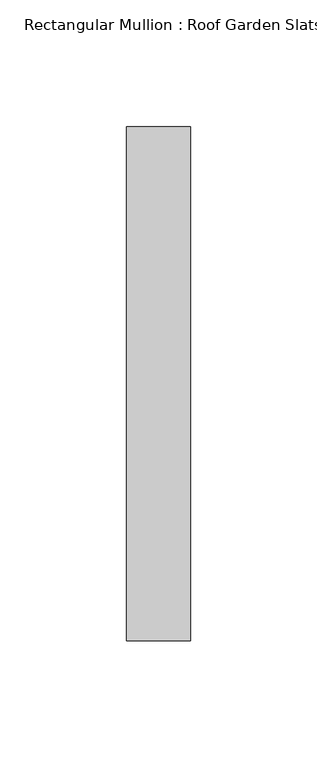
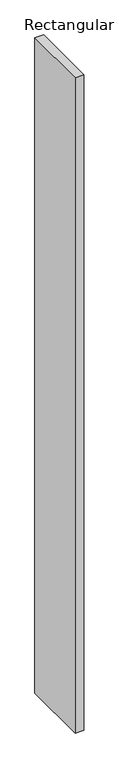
"""IFC4 building model written with IfcOpenShell, lengths in millimetres: member geometry, Rectangular Mullion : Roof Garden Slats."""

import ifcopenshell
import ifcopenshell.guid

model = None  # the IFC model being written
_history = None  # IfcOwnerHistory: only IFC2X3 demands one
_inside = {}  # id of a spatial element -> (the spatial element, [elements in it])
_under = {}  # id of a project, library or spatial element -> (it, [spatial elements below it])
_declared = {}  # id of a project -> (the project, [libraries it declares])
_typed = {}  # id of a type object -> (the type object, [elements of that type])
_made_of = {}  # id of a material, layer set ... -> (it, [elements and type objects made of it])


def new_model(schema):
    """Start an empty IFC model of exactly this schema.

    Asked for "IFC4X3", IfcOpenShell would pick the latest addendum, in which some entities
    have other attributes; the version numbers below select the first issue.
    IFC2X3 requires an IfcOwnerHistory on every rooted entity: one is made here for all.
    """
    global model, _history
    if schema == "IFC4X3":
        model = ifcopenshell.file(schema_version=(4, 3, 0, 0))
    else:
        model = ifcopenshell.file(schema=schema)
    _inside.clear()
    _under.clear()
    _declared.clear()
    _typed.clear()
    _made_of.clear()
    _history = None
    if model.schema == "IFC2X3":
        org = make("IfcOrganization", Name="unknown")
        user = make(
            "IfcPersonAndOrganization",
            ThePerson=make("IfcPerson", FamilyName="unknown"),
            TheOrganization=org,
        )
        app = make(
            "IfcApplication",
            ApplicationDeveloper=org,
            Version="unknown",
            ApplicationFullName="unknown",
            ApplicationIdentifier="unknown",
        )
        _history = make(
            "IfcOwnerHistory",
            OwningUser=user,
            OwningApplication=app,
            ChangeAction="ADDED",
            CreationDate=0,
        )
    return model


def make(cls, **values):
    """One entity of the class cls with the attributes given. An attribute that is None is left unset."""
    return model.create_entity(
        cls, **{name: value for name, value in values.items() if value is not None}
    )


def rooted(cls, **values):
    """An entity with a GlobalId (a new one), such as an element, a storey or a relation."""
    return make(cls, GlobalId=ifcopenshell.guid.new(), OwnerHistory=_history, **values)


def si_unit(unit_type, name, prefix=None):
    """IfcSIUnit, for example si_unit("LENGTHUNIT", "METRE", prefix="MILLI")."""
    return make("IfcSIUnit", UnitType=unit_type, Prefix=prefix, Name=name)


def assignment(units):
    """IfcUnitAssignment: the units of a project."""
    return None if units is None else make("IfcUnitAssignment", Units=units)


def point(xyz):
    """IfcCartesianPoint."""
    return None if xyz is None else make("IfcCartesianPoint", Coordinates=xyz)


def direction(xyz):
    """IfcDirection."""
    return None if xyz is None else make("IfcDirection", DirectionRatios=xyz)


def frame(location, z_axis=None, x_axis=None):
    """IfcAxis2Placement3D, a coordinate frame: its origin and axes. An axis left out is left unset."""
    return make(
        "IfcAxis2Placement3D",
        Location=point(location),
        Axis=direction(z_axis),
        RefDirection=direction(x_axis),
    )


def origin():
    """The frame at (0, 0, 0) with its axes left unset."""
    return frame((0.0, 0.0, 0.0))


def place(relative_to, where):
    """IfcLocalPlacement: puts the frame where relative to a parent placement (None: the world)."""
    return make(
        "IfcLocalPlacement", PlacementRelTo=relative_to, RelativePlacement=where
    )


def context(
    kind, dimensions, precision=None, world=None, true_north=None, identifier=None
):
    """IfcGeometricRepresentationContext, for example the 3D "Model" context."""
    return make(
        "IfcGeometricRepresentationContext",
        ContextIdentifier=identifier,
        ContextType=kind,
        CoordinateSpaceDimension=dimensions,
        Precision=precision,
        WorldCoordinateSystem=world,
        TrueNorth=true_north,
    )


def project(units=None, contexts=None):
    """IfcProject with its units and contexts."""
    return rooted(
        "IfcProject",
        Name="project",
        RepresentationContexts=contexts,
        UnitsInContext=assignment(units),
    )


def spatial(cls, under=None, at=None, **own):
    """A site, building, storey or space (cls), placed at a placement, below another one or the project."""
    s = rooted(cls, ObjectPlacement=at, **own)
    if under is not None:
        _under.setdefault(under.id(), (under, []))[1].append(s)
    return s


def polyline(points):
    """IfcPolyline through the points."""
    return make("IfcPolyline", Points=[point(p) for p in points])


def outline(outer, holes=None, kind="AREA"):
    """IfcArbitraryClosedProfileDef: a profile drawn as a closed curve; with holes, ...WithVoids."""
    if holes is None:
        return make("IfcArbitraryClosedProfileDef", ProfileType=kind, OuterCurve=outer)
    return make(
        "IfcArbitraryProfileDefWithVoids",
        ProfileType=kind,
        OuterCurve=outer,
        InnerCurves=holes,
    )


def extrude(swept, where, along, depth):
    """IfcExtrudedAreaSolid: the profile swept, set in the frame where, extruded along a direction by depth."""
    return make(
        "IfcExtrudedAreaSolid",
        SweptArea=swept,
        Position=where,
        ExtrudedDirection=direction(along),
        Depth=depth,
    )


def shape(context_of_items, identifier, shape_type, items):
    """IfcShapeRepresentation: the items that make up one representation, for example the "Body"."""
    return make(
        "IfcShapeRepresentation",
        ContextOfItems=context_of_items,
        RepresentationIdentifier=identifier,
        RepresentationType=shape_type,
        Items=items,
    )


def source(mapping_origin, context_of_items, identifier, shape_type, items):
    """IfcRepresentationMap: a shape defined once, which mapped items show again and again."""
    return make(
        "IfcRepresentationMap",
        MappingOrigin=mapping_origin,
        MappedRepresentation=shape(context_of_items, identifier, shape_type, items),
    )


def transform(
    local_origin,
    x_axis=None,
    y_axis=None,
    z_axis=None,
    scale=None,
    scale2=None,
    scale3=None,
    uniform=True,
):
    """IfcCartesianTransformationOperator3D, or its non-uniform kind. x_axis, y_axis, z_axis: its Axis1, 2, 3."""
    if uniform:
        return make(
            "IfcCartesianTransformationOperator3D",
            Axis1=direction(x_axis),
            Axis2=direction(y_axis),
            LocalOrigin=point(local_origin),
            Scale=scale,
            Axis3=direction(z_axis),
        )
    return make(
        "IfcCartesianTransformationOperator3DnonUniform",
        Axis1=direction(x_axis),
        Axis2=direction(y_axis),
        LocalOrigin=point(local_origin),
        Scale=scale,
        Axis3=direction(z_axis),
        Scale2=scale2,
        Scale3=scale3,
    )


def mapped(mapping_source, mapping_target):
    """IfcMappedItem: shows the shape of a source again, moved by a transform."""
    return make(
        "IfcMappedItem", MappingSource=mapping_source, MappingTarget=mapping_target
    )


def made_of(thing, what):
    """Note that an element or type object is made of a material, layer set ...; save() writes the relation."""
    if what is not None:
        _made_of.setdefault(what.id(), (what, []))[1].append(thing)
    return thing


def element(
    cls,
    number,
    at=None,
    inside=None,
    cuts=None,
    type_object=None,
    material=None,
    context=None,
    identifier="Body",
    shape_type=None,
    held_by="IfcProductDefinitionShape",
    body=None,
    shapes=None,
    **own,
):
    """One element of the class cls, such as IfcWall. Its Tag is "e" and its number.

    at: its placement. inside: the storey or other place that contains it. cuts: it is an
    opening in that element (IfcRelVoidsElement). A single representation is given by context,
    identifier, shape_type and body (its items); several are given by shapes. held_by: the class
    of the entity that holds the representations. save() writes the other relations.
    """
    e = rooted(cls, Tag="e%d" % number, ObjectPlacement=at, **own)
    if body is not None:
        shapes = [shape(context, identifier, shape_type, body)]
    if shapes is not None:
        e.Representation = make(held_by, Representations=shapes)
    if inside is not None:
        _inside.setdefault(inside.id(), (inside, []))[1].append(e)
    if cuts is not None:
        rooted(
            "IfcRelVoidsElement", RelatingBuildingElement=cuts, RelatedOpeningElement=e
        )
    if type_object is not None:
        _typed.setdefault(type_object.id(), (type_object, []))[1].append(e)
    return made_of(e, material)


def aggregate(whole, parts):
    """IfcRelAggregates: a whole, such as a stair, and the parts it consists of."""
    return rooted("IfcRelAggregates", RelatingObject=whole, RelatedObjects=parts)


def save(model, path):
    """Write the relations noted so far, then the file.

    IfcRelAggregates (storeys below a building ...), IfcRelContainedInSpatialStructure (elements
    in a storey), IfcRelDefinesByType, IfcRelAssociatesMaterial and IfcRelDeclares: one each for
    every whole, place, type object, material and project.
    """
    for whole, parts in _under.values():
        aggregate(whole, parts)
    for where, things in _inside.values():
        rooted(
            "IfcRelContainedInSpatialStructure",
            RelatedElements=things,
            RelatingStructure=where,
        )
    for kind, things in _typed.values():
        rooted("IfcRelDefinesByType", RelatedObjects=things, RelatingType=kind)
    for what, things in _made_of.values():
        rooted("IfcRelAssociatesMaterial", RelatedObjects=things, RelatingMaterial=what)
    for by, libraries in _declared.values():
        rooted("IfcRelDeclares", RelatingContext=by, RelatedDefinitions=libraries)
    model.write(path)


def rectangular_mullion_roof_garden_slats_9e192471(model_context):
    return source(origin(), model_context, "Body", "SweptSolid", [
        extrude(outline(polyline([(12.7, 139.7), (12.7, -63.5), (-12.7, -63.5), (-12.7, 139.7), (12.7, 139.7)])), frame((0.0, 0.0, -2025.4388954), z_axis=(0.0, 0.0, 1.0), x_axis=(1.0, 0.0, 0.0)), (0.0, 0.0, 1.0), 2025.4388954),
    ])


if __name__ == "__main__":
    model = new_model("IFC4")
    model_context = context("Model", 3, world=origin())
    ifc_project = project(units=[si_unit("LENGTHUNIT", "METRE", prefix="MILLI")], contexts=[model_context])
    site = spatial("IfcSite", under=ifc_project)
    building = spatial("IfcBuilding", under=site)
    placement = place(None, origin())
    rectangular_mullion_roof_garden_slats_shape = rectangular_mullion_roof_garden_slats_9e192471(model_context)
    element("IfcMember", 1, ObjectType="Rectangular Mullion : Roof Garden Slats", at=placement, inside=building, context=model_context, shape_type="MappedRepresentation", body=[
        mapped(rectangular_mullion_roof_garden_slats_shape, transform((0.0, 0.0, 0.0), x_axis=(1.0, 0.0, 0.0), y_axis=(0.0, 1.0, 0.0), z_axis=(0.0, 0.0, 1.0))),
    ])
    save(model, "model.ifc")
